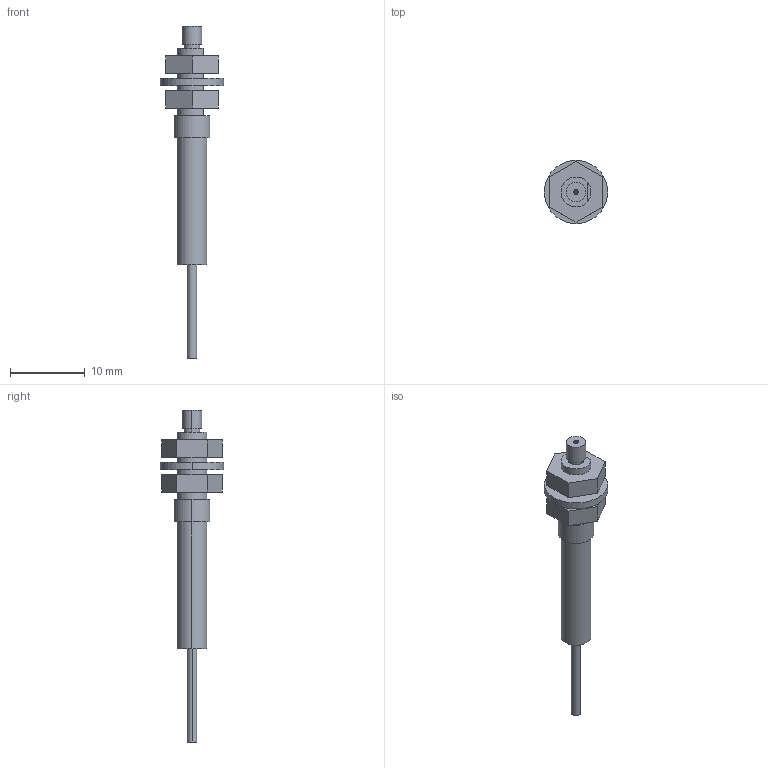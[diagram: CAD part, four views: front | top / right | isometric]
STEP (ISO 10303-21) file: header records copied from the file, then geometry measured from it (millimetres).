
FILE_DESCRIPTION (( 'STEP AP203' ), '1' );
FILE_NAME ('FT-P60.STEP', '2005-11-09T08:29:28', ( '' ), ( '' ), 'SwSTEP 2.0', 'SolidWorks 2004073', '' );
FILE_SCHEMA (( 'CONFIG_CONTROL_DESIGN' ));
Length unit declared in the file: millimetre
Products named in the file (1): FT-P60
Bounding box: 8.5 x 8.5 x 44.5 mm (x, y, z)
Volume: 590.7 mm3; surface area: 906.8 mm2
Topology: 4 solids, 4 shells, 66 faces, 138 edges, 92 vertices
Faces by surface type: plane 33, cylinder 33
Entity records: 1871 total; most frequent: DIRECTION 338, CARTESIAN_POINT 297, ORIENTED_EDGE 276, EDGE_CURVE 138, AXIS2_PLACEMENT_3D 133, VERTEX_POINT 92, EDGE_LOOP 84, VECTOR 72
